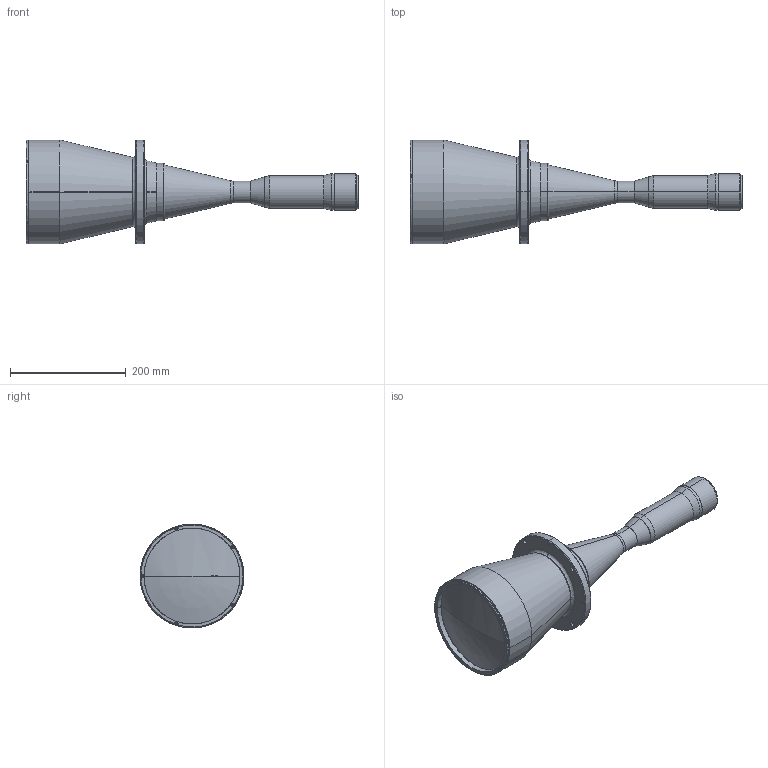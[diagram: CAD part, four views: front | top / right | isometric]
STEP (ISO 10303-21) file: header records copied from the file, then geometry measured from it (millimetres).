
FILE_DESCRIPTION(('LS-TCL-0209'),'2;1');
FILE_NAME('LS-TCL-0209.stp','2026-10-15T21:54:39',('LumaSpec Vision'),('LumaSpec Vision'),'LumaSpec Vision','LumaSpec Vision','');
FILE_SCHEMA(('AUTOMOTIVE_DESIGN { 1 0 10303 214 1 1 1 1 }'));
Length unit declared in the file: millimetre
Products named in the file (180): LumaSpec Vision
Assembly tree (179 placements, depth 2):
  LumaSpec Vision
    LumaSpec Vision
    LumaSpec Vision
    LumaSpec Vision
    LumaSpec Vision
    LumaSpec Vision
    LumaSpec Vision
    LumaSpec Vision
    LumaSpec Vision
    LumaSpec Vision
    LumaSpec Vision
    LumaSpec Vision
    LumaSpec Vision
    LumaSpec Vision
    LumaSpec Vision
    LumaSpec Vision
    LumaSpec Vision
    LumaSpec Vision
    LumaSpec Vision
    LumaSpec Vision
    LumaSpec Vision
    LumaSpec Vision
    LumaSpec Vision
    LumaSpec Vision
    LumaSpec Vision
    LumaSpec Vision
    LumaSpec Vision
    LumaSpec Vision
    LumaSpec Vision
    LumaSpec Vision
    LumaSpec Vision
    LumaSpec Vision
    LumaSpec Vision
    LumaSpec Vision
    LumaSpec Vision
    LumaSpec Vision
    LumaSpec Vision
    LumaSpec Vision
    LumaSpec Vision
    LumaSpec Vision
    LumaSpec Vision
    LumaSpec Vision
    LumaSpec Vision
    LumaSpec Vision
    LumaSpec Vision
    LumaSpec Vision
    LumaSpec Vision
    LumaSpec Vision
    LumaSpec Vision
    LumaSpec Vision
    LumaSpec Vision
    LumaSpec Vision
    LumaSpec Vision
    LumaSpec Vision
    LumaSpec Vision
    LumaSpec Vision
    LumaSpec Vision
    LumaSpec Vision
    LumaSpec Vision
    LumaSpec Vision
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Bounding box: 574.67 x 180 x 180 mm (x, y, z)
Surface area: 260183.8 mm2 (no closed solid volume)
Topology: 0 solids, 179 shells, 179 faces, 3261 edges, 3252 vertices
Faces by surface type: revolution 94, bspline 85
Entity records: 54183 total; most frequent: CARTESIAN_POINT 21965, B_SPLINE_CURVE_WITH_KNOTS 5825, ORIENTED_EDGE 3252, EDGE_CURVE 3252, VERTEX_POINT 3252, SURFACE_CURVE 3252, PCURVE 3252, DEFINITIONAL_REPRESENTATION 3252
